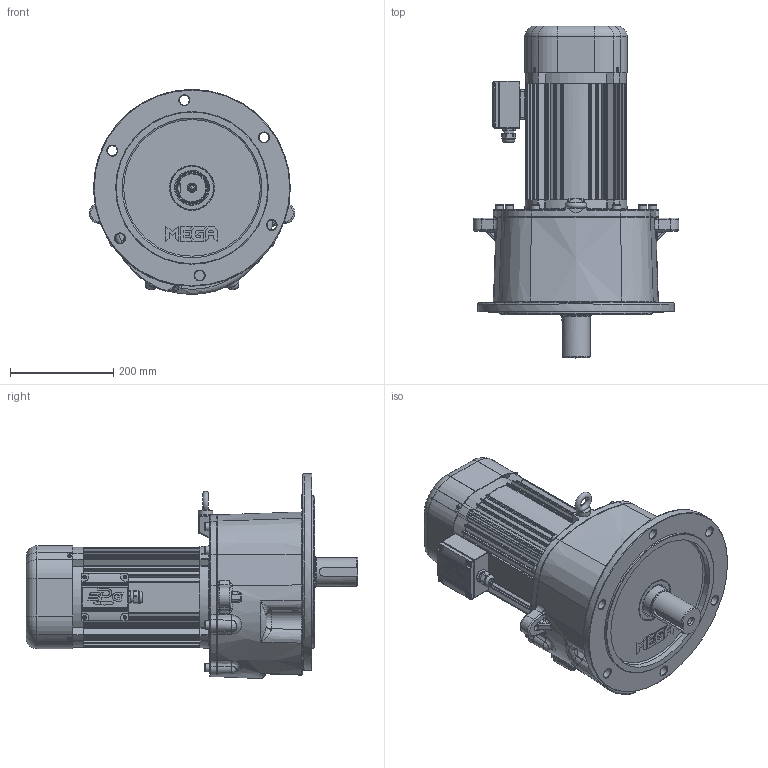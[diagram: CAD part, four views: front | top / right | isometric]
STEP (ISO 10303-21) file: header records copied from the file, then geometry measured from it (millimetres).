
FILE_DESCRIPTION(/* description */ (''),/* implementation_level */ '2;1');
FILE_NAME(/* name */ 'Z:\동력 3D 파일\PMK205_2.2kW_Brake_3D.stp',/* time_stamp */ '2021-12-01T09:19:43+09:00',/* author */ ('jaebok'),/* organization */ (''),/* preprocessor_version */ 'ST-DEVELOPER v18.1',/* originating_system */ 'Autodesk Inventor 2022',/* authorisation */ '');
FILE_SCHEMA (('AUTOMOTIVE_DESIGN { 1 0 10303 214 3 1 1 }'));
Products named in the file (1): 부품11
Bounding box: 397 x 641.6 x 395.96 mm (x, y, z)
Volume: 10970717.2 mm3; surface area: 1709679.6 mm2
Topology: 2 solids, 41 shells, 2984 faces, 7503 edges, 4547 vertices
Faces by surface type: plane 1053, cylinder 861, bspline 499, torus 274, cone 180, sphere 117
Full cylindrical faces by diameter (mm): 3.242 x4, 3.25 x1, 3.6 x4, 4 x21, 5 x13, 6 x5, 6.647 x12, 7 x8, 8 x5, 8.376 x1, 9 x4, 10 x9, 10.106 x3, 11 x8, 12 x1, 12.5 x1, 13.835 x1, 15 x1, 16 x8, 19 x6, 20 x2, 21 x1, 23.6 x1, 24 x1, 25 x1, 28 x1, 36 x1, 45 x1, 48 x1, 50 x1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
Entity records: 113855 total; most frequent: CARTESIAN_POINT 41554, ORIENTED_EDGE 14688, DIRECTION 14495, EDGE_CURVE 7344, AXIS2_PLACEMENT_3D 5746, VERTEX_POINT 4547, EDGE_LOOP 3231, CIRCLE 3112
